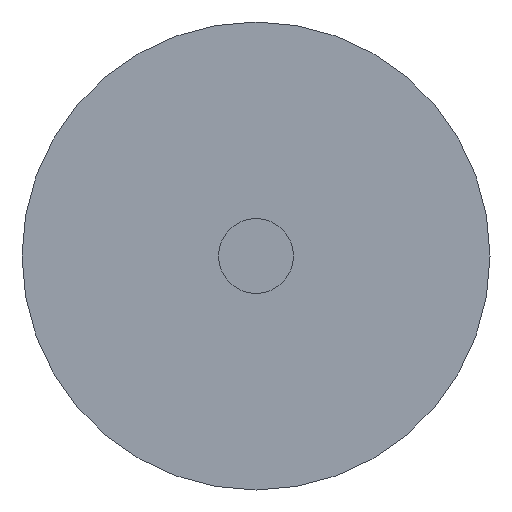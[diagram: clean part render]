
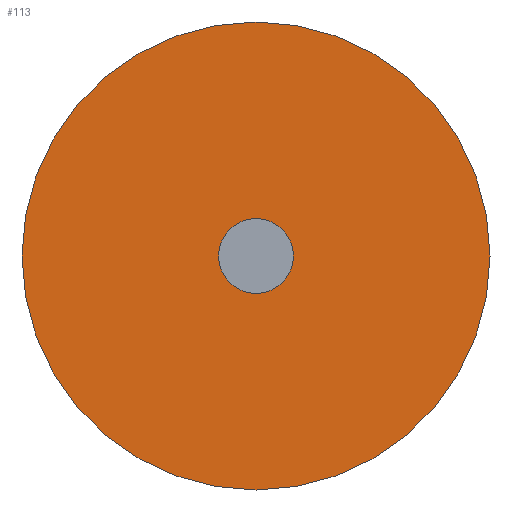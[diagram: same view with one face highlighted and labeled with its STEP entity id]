
A CAD part, left-side view. The second image highlights one B-rep face of the part: STEP entity #113.
In plain terms, the highlighted planar face has unit normal (-1, 0, 0).
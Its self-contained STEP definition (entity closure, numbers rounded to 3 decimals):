
#21 = EDGE_CURVE('',#22,#22,#24,.T.);
#22 = VERTEX_POINT('',#23);
#23 = CARTESIAN_POINT('',(-3.25,28.,25.25));
#24 = SURFACE_CURVE('',#25,(#30,#42),.PCURVE_S1.);
#25 = CIRCLE('',#26,6.25);
#26 = AXIS2_PLACEMENT_3D('',#27,#28,#29);
#27 = CARTESIAN_POINT('',(-3.25,28.,19.));
#28 = DIRECTION('',(1.,-0.,0.));
#29 = DIRECTION('',(-0.,-0.,1.));
#30 = PCURVE('',#31,#36);
#31 = CYLINDRICAL_SURFACE('',#32,6.25);
#32 = AXIS2_PLACEMENT_3D('',#33,#34,#35);
#33 = CARTESIAN_POINT('',(3.25,28.,19.));
#34 = DIRECTION('',(-1.,-0.,-0.));
#35 = DIRECTION('',(-0.,-0.,1.));
#36 = DEFINITIONAL_REPRESENTATION('',(#37),#41);
#37 = LINE('',#38,#39);
#38 = CARTESIAN_POINT('',(-0.,6.5));
#39 = VECTOR('',#40,1.);
#40 = DIRECTION('',(-1.,0.));
#41 = ( GEOMETRIC_REPRESENTATION_CONTEXT(2) 
PARAMETRIC_REPRESENTATION_CONTEXT() REPRESENTATION_CONTEXT('2D SPACE',''
  ) );
#42 = PCURVE('',#43,#48);
#43 = PLANE('',#44);
#44 = AXIS2_PLACEMENT_3D('',#45,#46,#47);
#45 = CARTESIAN_POINT('',(-3.25,28.,19.));
#46 = DIRECTION('',(-1.,-0.,-0.));
#47 = DIRECTION('',(0.,0.,-1.));
#48 = DEFINITIONAL_REPRESENTATION('',(#49),#57);
#49 = ( BOUNDED_CURVE() B_SPLINE_CURVE(2,(#50,#51,#52,#53,#54,#55,#56),
.UNSPECIFIED.,.T.,.F.) B_SPLINE_CURVE_WITH_KNOTS((1,2,2,2,2,1),(
    -2.094,0.,2.094,4.189,6.283,
8.378),.UNSPECIFIED.) CURVE() GEOMETRIC_REPRESENTATION_ITEM() 
RATIONAL_B_SPLINE_CURVE((1.,0.5,1.,0.5,1.,0.5,1.)) REPRESENTATION_ITEM(
  '') );
#50 = CARTESIAN_POINT('',(-6.25,0.));
#51 = CARTESIAN_POINT('',(-6.25,10.825));
#52 = CARTESIAN_POINT('',(3.125,5.413));
#53 = CARTESIAN_POINT('',(12.5,0.));
#54 = CARTESIAN_POINT('',(3.125,-5.413));
#55 = CARTESIAN_POINT('',(-6.25,-10.825));
#56 = CARTESIAN_POINT('',(-6.25,0.));
#57 = ( GEOMETRIC_REPRESENTATION_CONTEXT(2) 
PARAMETRIC_REPRESENTATION_CONTEXT() REPRESENTATION_CONTEXT('2D SPACE',''
  ) );
#113 = ADVANCED_FACE('',(#114,#117),#43,.T.);
#114 = FACE_BOUND('',#115,.F.);
#115 = EDGE_LOOP('',(#116));
#116 = ORIENTED_EDGE('',*,*,#21,.T.);
#117 = FACE_BOUND('',#118,.F.);
#118 = EDGE_LOOP('',(#119));
#119 = ORIENTED_EDGE('',*,*,#120,.F.);
#120 = EDGE_CURVE('',#121,#121,#123,.T.);
#121 = VERTEX_POINT('',#122);
#122 = CARTESIAN_POINT('',(-3.25,28.,20.));
#123 = SURFACE_CURVE('',#124,(#129,#140),.PCURVE_S1.);
#124 = CIRCLE('',#125,1.);
#125 = AXIS2_PLACEMENT_3D('',#126,#127,#128);
#126 = CARTESIAN_POINT('',(-3.25,28.,19.));
#127 = DIRECTION('',(1.,-0.,0.));
#128 = DIRECTION('',(-0.,-0.,1.));
#129 = PCURVE('',#43,#130);
#130 = DEFINITIONAL_REPRESENTATION('',(#131),#139);
#131 = ( BOUNDED_CURVE() B_SPLINE_CURVE(2,(#132,#133,#134,#135,#136,#137
,#138),.UNSPECIFIED.,.T.,.F.) B_SPLINE_CURVE_WITH_KNOTS((1,2,2,2,2,1),(
    -2.094,0.,2.094,4.189,6.283,
8.378),.UNSPECIFIED.) CURVE() GEOMETRIC_REPRESENTATION_ITEM() 
RATIONAL_B_SPLINE_CURVE((1.,0.5,1.,0.5,1.,0.5,1.)) REPRESENTATION_ITEM(
  '') );
#132 = CARTESIAN_POINT('',(-1.,0.));
#133 = CARTESIAN_POINT('',(-1.,1.732));
#134 = CARTESIAN_POINT('',(0.5,0.866));
#135 = CARTESIAN_POINT('',(2.,0.));
#136 = CARTESIAN_POINT('',(0.5,-0.866));
#137 = CARTESIAN_POINT('',(-1.,-1.732));
#138 = CARTESIAN_POINT('',(-1.,0.));
#139 = ( GEOMETRIC_REPRESENTATION_CONTEXT(2) 
PARAMETRIC_REPRESENTATION_CONTEXT() REPRESENTATION_CONTEXT('2D SPACE',''
  ) );
#140 = PCURVE('',#141,#146);
#141 = CYLINDRICAL_SURFACE('',#142,1.);
#142 = AXIS2_PLACEMENT_3D('',#143,#144,#145);
#143 = CARTESIAN_POINT('',(-3.05,28.,19.));
#144 = DIRECTION('',(-1.,-0.,-0.));
#145 = DIRECTION('',(-0.,-0.,1.));
#146 = DEFINITIONAL_REPRESENTATION('',(#147),#151);
#147 = LINE('',#148,#149);
#148 = CARTESIAN_POINT('',(-0.,0.2));
#149 = VECTOR('',#150,1.);
#150 = DIRECTION('',(-1.,0.));
#151 = ( GEOMETRIC_REPRESENTATION_CONTEXT(2) 
PARAMETRIC_REPRESENTATION_CONTEXT() REPRESENTATION_CONTEXT('2D SPACE',''
  ) );
